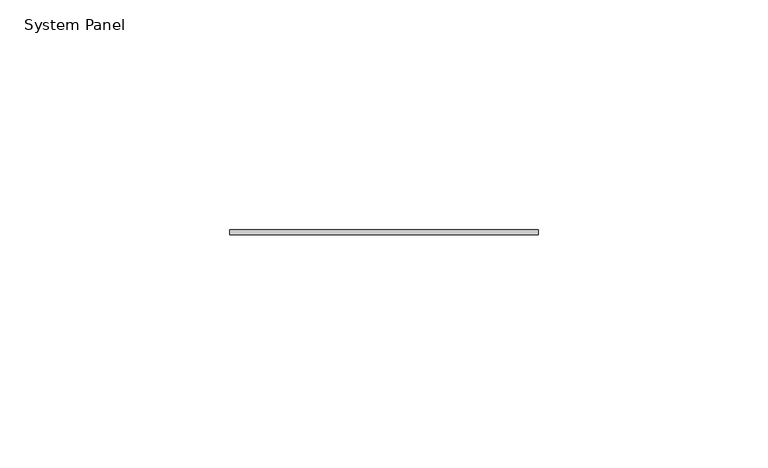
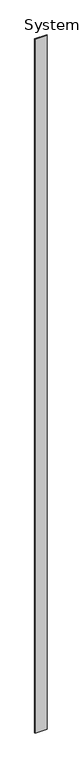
"""IFC4 building model written with IfcOpenShell, lengths in millimetres: plate geometry, System Panel : Stratco_Hiland_Interlock_Panel."""

import ifcopenshell
import ifcopenshell.guid

model = None  # the IFC model being written
_history = None  # IfcOwnerHistory: only IFC2X3 demands one
_inside = {}  # id of a spatial element -> (the spatial element, [elements in it])
_under = {}  # id of a project, library or spatial element -> (it, [spatial elements below it])
_declared = {}  # id of a project -> (the project, [libraries it declares])
_typed = {}  # id of a type object -> (the type object, [elements of that type])
_made_of = {}  # id of a material, layer set ... -> (it, [elements and type objects made of it])


def new_model(schema):
    """Start an empty IFC model of exactly this schema.

    Asked for "IFC4X3", IfcOpenShell would pick the latest addendum, in which some entities
    have other attributes; the version numbers below select the first issue.
    IFC2X3 requires an IfcOwnerHistory on every rooted entity: one is made here for all.
    """
    global model, _history
    if schema == "IFC4X3":
        model = ifcopenshell.file(schema_version=(4, 3, 0, 0))
    else:
        model = ifcopenshell.file(schema=schema)
    _inside.clear()
    _under.clear()
    _declared.clear()
    _typed.clear()
    _made_of.clear()
    _history = None
    if model.schema == "IFC2X3":
        org = make("IfcOrganization", Name="unknown")
        user = make(
            "IfcPersonAndOrganization",
            ThePerson=make("IfcPerson", FamilyName="unknown"),
            TheOrganization=org,
        )
        app = make(
            "IfcApplication",
            ApplicationDeveloper=org,
            Version="unknown",
            ApplicationFullName="unknown",
            ApplicationIdentifier="unknown",
        )
        _history = make(
            "IfcOwnerHistory",
            OwningUser=user,
            OwningApplication=app,
            ChangeAction="ADDED",
            CreationDate=0,
        )
    return model


def make(cls, **values):
    """One entity of the class cls with the attributes given. An attribute that is None is left unset."""
    return model.create_entity(
        cls, **{name: value for name, value in values.items() if value is not None}
    )


def rooted(cls, **values):
    """An entity with a GlobalId (a new one), such as an element, a storey or a relation."""
    return make(cls, GlobalId=ifcopenshell.guid.new(), OwnerHistory=_history, **values)


def si_unit(unit_type, name, prefix=None):
    """IfcSIUnit, for example si_unit("LENGTHUNIT", "METRE", prefix="MILLI")."""
    return make("IfcSIUnit", UnitType=unit_type, Prefix=prefix, Name=name)


def assignment(units):
    """IfcUnitAssignment: the units of a project."""
    return None if units is None else make("IfcUnitAssignment", Units=units)


def point(xyz):
    """IfcCartesianPoint."""
    return None if xyz is None else make("IfcCartesianPoint", Coordinates=xyz)


def direction(xyz):
    """IfcDirection."""
    return None if xyz is None else make("IfcDirection", DirectionRatios=xyz)


def frame(location, z_axis=None, x_axis=None):
    """IfcAxis2Placement3D, a coordinate frame: its origin and axes. An axis left out is left unset."""
    return make(
        "IfcAxis2Placement3D",
        Location=point(location),
        Axis=direction(z_axis),
        RefDirection=direction(x_axis),
    )


def origin():
    """The frame at (0, 0, 0) with its axes left unset."""
    return frame((0.0, 0.0, 0.0))


def origin_with_axes():
    """The frame at (0, 0, 0) with the z axis (0, 0, 1) and the x axis (1, 0, 0) written out."""
    return frame((0.0, 0.0, 0.0), z_axis=(0.0, 0.0, 1.0), x_axis=(1.0, 0.0, 0.0))


def place(relative_to, where):
    """IfcLocalPlacement: puts the frame where relative to a parent placement (None: the world)."""
    return make(
        "IfcLocalPlacement", PlacementRelTo=relative_to, RelativePlacement=where
    )


def context(
    kind, dimensions, precision=None, world=None, true_north=None, identifier=None
):
    """IfcGeometricRepresentationContext, for example the 3D "Model" context."""
    return make(
        "IfcGeometricRepresentationContext",
        ContextIdentifier=identifier,
        ContextType=kind,
        CoordinateSpaceDimension=dimensions,
        Precision=precision,
        WorldCoordinateSystem=world,
        TrueNorth=true_north,
    )


def project(units=None, contexts=None):
    """IfcProject with its units and contexts."""
    return rooted(
        "IfcProject",
        Name="project",
        RepresentationContexts=contexts,
        UnitsInContext=assignment(units),
    )


def spatial(cls, under=None, at=None, **own):
    """A site, building, storey or space (cls), placed at a placement, below another one or the project."""
    s = rooted(cls, ObjectPlacement=at, **own)
    if under is not None:
        _under.setdefault(under.id(), (under, []))[1].append(s)
    return s


def polyline(points):
    """IfcPolyline through the points."""
    return make("IfcPolyline", Points=[point(p) for p in points])


def outline(outer, holes=None, kind="AREA"):
    """IfcArbitraryClosedProfileDef: a profile drawn as a closed curve; with holes, ...WithVoids."""
    if holes is None:
        return make("IfcArbitraryClosedProfileDef", ProfileType=kind, OuterCurve=outer)
    return make(
        "IfcArbitraryProfileDefWithVoids",
        ProfileType=kind,
        OuterCurve=outer,
        InnerCurves=holes,
    )


def extrude(swept, where, along, depth):
    """IfcExtrudedAreaSolid: the profile swept, set in the frame where, extruded along a direction by depth."""
    return make(
        "IfcExtrudedAreaSolid",
        SweptArea=swept,
        Position=where,
        ExtrudedDirection=direction(along),
        Depth=depth,
    )


def shape(context_of_items, identifier, shape_type, items):
    """IfcShapeRepresentation: the items that make up one representation, for example the "Body"."""
    return make(
        "IfcShapeRepresentation",
        ContextOfItems=context_of_items,
        RepresentationIdentifier=identifier,
        RepresentationType=shape_type,
        Items=items,
    )


def source(mapping_origin, context_of_items, identifier, shape_type, items):
    """IfcRepresentationMap: a shape defined once, which mapped items show again and again."""
    return make(
        "IfcRepresentationMap",
        MappingOrigin=mapping_origin,
        MappedRepresentation=shape(context_of_items, identifier, shape_type, items),
    )


def transform(
    local_origin,
    x_axis=None,
    y_axis=None,
    z_axis=None,
    scale=None,
    scale2=None,
    scale3=None,
    uniform=True,
):
    """IfcCartesianTransformationOperator3D, or its non-uniform kind. x_axis, y_axis, z_axis: its Axis1, 2, 3."""
    if uniform:
        return make(
            "IfcCartesianTransformationOperator3D",
            Axis1=direction(x_axis),
            Axis2=direction(y_axis),
            LocalOrigin=point(local_origin),
            Scale=scale,
            Axis3=direction(z_axis),
        )
    return make(
        "IfcCartesianTransformationOperator3DnonUniform",
        Axis1=direction(x_axis),
        Axis2=direction(y_axis),
        LocalOrigin=point(local_origin),
        Scale=scale,
        Axis3=direction(z_axis),
        Scale2=scale2,
        Scale3=scale3,
    )


def mapped(mapping_source, mapping_target):
    """IfcMappedItem: shows the shape of a source again, moved by a transform."""
    return make(
        "IfcMappedItem", MappingSource=mapping_source, MappingTarget=mapping_target
    )


def made_of(thing, what):
    """Note that an element or type object is made of a material, layer set ...; save() writes the relation."""
    if what is not None:
        _made_of.setdefault(what.id(), (what, []))[1].append(thing)
    return thing


def element(
    cls,
    number,
    at=None,
    inside=None,
    cuts=None,
    type_object=None,
    material=None,
    context=None,
    identifier="Body",
    shape_type=None,
    held_by="IfcProductDefinitionShape",
    body=None,
    shapes=None,
    **own,
):
    """One element of the class cls, such as IfcWall. Its Tag is "e" and its number.

    at: its placement. inside: the storey or other place that contains it. cuts: it is an
    opening in that element (IfcRelVoidsElement). A single representation is given by context,
    identifier, shape_type and body (its items); several are given by shapes. held_by: the class
    of the entity that holds the representations. save() writes the other relations.
    """
    e = rooted(cls, Tag="e%d" % number, ObjectPlacement=at, **own)
    if body is not None:
        shapes = [shape(context, identifier, shape_type, body)]
    if shapes is not None:
        e.Representation = make(held_by, Representations=shapes)
    if inside is not None:
        _inside.setdefault(inside.id(), (inside, []))[1].append(e)
    if cuts is not None:
        rooted(
            "IfcRelVoidsElement", RelatingBuildingElement=cuts, RelatedOpeningElement=e
        )
    if type_object is not None:
        _typed.setdefault(type_object.id(), (type_object, []))[1].append(e)
    return made_of(e, material)


def aggregate(whole, parts):
    """IfcRelAggregates: a whole, such as a stair, and the parts it consists of."""
    return rooted("IfcRelAggregates", RelatingObject=whole, RelatedObjects=parts)


def save(model, path):
    """Write the relations noted so far, then the file.

    IfcRelAggregates (storeys below a building ...), IfcRelContainedInSpatialStructure (elements
    in a storey), IfcRelDefinesByType, IfcRelAssociatesMaterial and IfcRelDeclares: one each for
    every whole, place, type object, material and project.
    """
    for whole, parts in _under.values():
        aggregate(whole, parts)
    for where, things in _inside.values():
        rooted(
            "IfcRelContainedInSpatialStructure",
            RelatedElements=things,
            RelatingStructure=where,
        )
    for kind, things in _typed.values():
        rooted("IfcRelDefinesByType", RelatedObjects=things, RelatingType=kind)
    for what, things in _made_of.values():
        rooted("IfcRelAssociatesMaterial", RelatedObjects=things, RelatingMaterial=what)
    for by, libraries in _declared.values():
        rooted("IfcRelDeclares", RelatingContext=by, RelatedDefinitions=libraries)
    model.write(path)


def system_panel_c4768e52(model_context):
    return source(origin(), model_context, "Body", "SweptSolid", [
        extrude(outline(polyline([(33.4999998, 24.0), (-33.4999998, 24.0), (-33.4999998, 25.0), (33.4999998, 25.0), (33.4999998, 24.0)])), origin_with_axes(), (0.0, 0.0, 1.0), 4000.0),
    ])


if __name__ == "__main__":
    model = new_model("IFC4")
    model_context = context("Model", 3, world=origin())
    ifc_project = project(units=[si_unit("LENGTHUNIT", "METRE", prefix="MILLI")], contexts=[model_context])
    site = spatial("IfcSite", under=ifc_project)
    building = spatial("IfcBuilding", under=site)
    placement = place(None, origin())
    system_panel_shape = system_panel_c4768e52(model_context)
    element("IfcPlate", 1, ObjectType="System Panel : Stratco_Hiland_Interlock_Panel", at=placement, inside=building, context=model_context, shape_type="MappedRepresentation", body=[
        mapped(system_panel_shape, transform((0.0, 0.0, 0.0), x_axis=(1.0, 0.0, 0.0), y_axis=(0.0, 1.0, 0.0), z_axis=(0.0, 0.0, 1.0))),
    ])
    save(model, "model.ifc")
